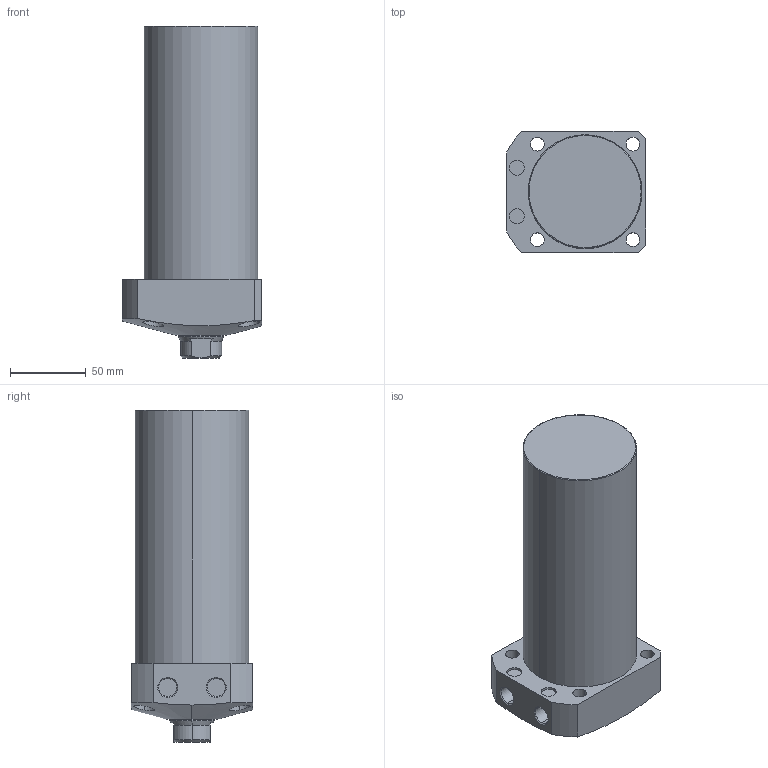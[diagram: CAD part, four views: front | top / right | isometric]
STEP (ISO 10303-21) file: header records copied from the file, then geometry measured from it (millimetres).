
FILE_DESCRIPTION (( 'STEP AP203' ), '1' );
FILE_NAME ('CLL-075CA-130.STEP', '2019-12-23T08:52:30', ( '' ), ( '' ), 'SwSTEP 2.0', 'SolidWorks 2015', '' );
FILE_SCHEMA (( 'CONFIG_CONTROL_DESIGN' ));
Length unit declared in the file: millimetre
Products named in the file (1): CLL-075CA-130
Bounding box: 92 x 80 x 219 mm (x, y, z)
Volume: 956841.4 mm3; surface area: 71682.8 mm2
Topology: 1 solids, 1 shells, 74 faces, 171 edges, 108 vertices
Faces by surface type: cylinder 35, plane 22, cone 15, torus 2
Entity records: 2610 total; most frequent: CARTESIAN_POINT 815, DIRECTION 376, ORIENTED_EDGE 338, EDGE_CURVE 169, AXIS2_PLACEMENT_3D 156, VERTEX_POINT 108, EDGE_LOOP 93, CIRCLE 81
